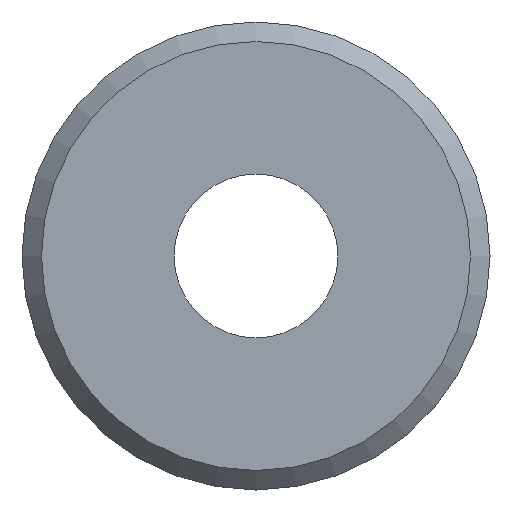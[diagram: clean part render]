
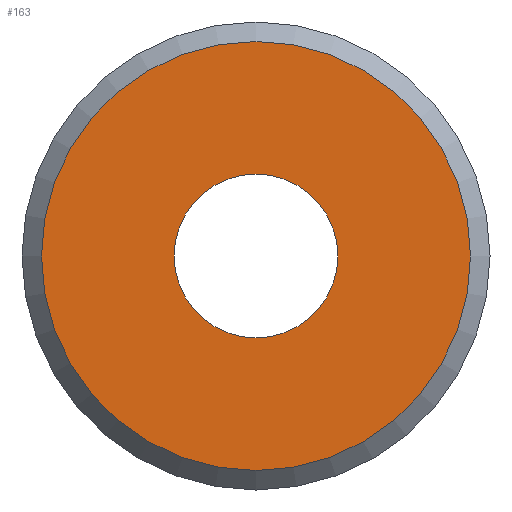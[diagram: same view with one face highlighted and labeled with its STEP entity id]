
A CAD part, front view. The second image highlights one B-rep face of the part: STEP entity #163.
In plain terms, the highlighted planar face has unit normal (0, -1, 0).
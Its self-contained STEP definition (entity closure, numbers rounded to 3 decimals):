
#121=CARTESIAN_POINT('',(-5.5,0.,0.));
#122=VERTEX_POINT('',#121);
#123=CARTESIAN_POINT('',(0.0,0.,0.0));
#124=DIRECTION('',(0.0,1.0,0.0));
#125=DIRECTION('',(1.0,0.0,0.0));
#126=AXIS2_PLACEMENT_3D('',#123,#124,#125);
#127=CIRCLE('',#126,5.5);
#128=EDGE_CURVE('',#122,#122,#127,.T.);
#144=CARTESIAN_POINT('',(-4.05,0.,0.0));
#145=DIRECTION('',(0.0,-1.0,0.0));
#146=DIRECTION('',(0.0,0.0,-1.0));
#147=AXIS2_PLACEMENT_3D('',#144,#145,#146);
#148=PLANE('',#147);
#149=ORIENTED_EDGE('',*,*,#128,.F.);
#150=EDGE_LOOP('',(#149));
#151=FACE_OUTER_BOUND('',#150,.T.);
#152=CARTESIAN_POINT('',(-2.1,0.,0.0));
#153=VERTEX_POINT('',#152);
#154=CARTESIAN_POINT('',(0.0,0.,0.0));
#155=DIRECTION('',(0.0,1.0,0.0));
#156=DIRECTION('',(-1.0,0.0,0.0));
#157=AXIS2_PLACEMENT_3D('',#154,#155,#156);
#158=CIRCLE('',#157,2.1);
#159=EDGE_CURVE('',#153,#153,#158,.T.);
#160=ORIENTED_EDGE('',*,*,#159,.T.);
#161=EDGE_LOOP('',(#160));
#162=FACE_BOUND('',#161,.T.);
#163=ADVANCED_FACE('',(#151,#162),#148,.T.);
